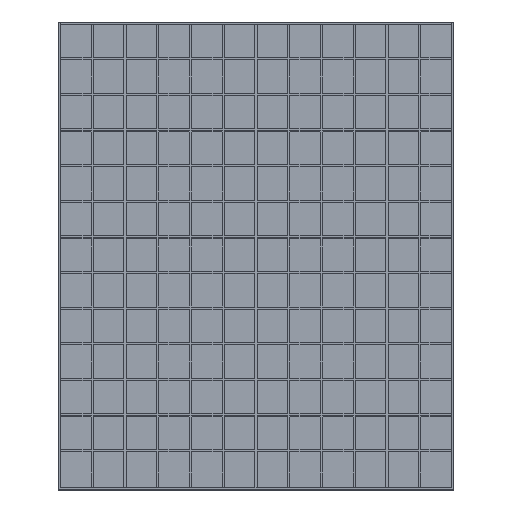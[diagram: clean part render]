
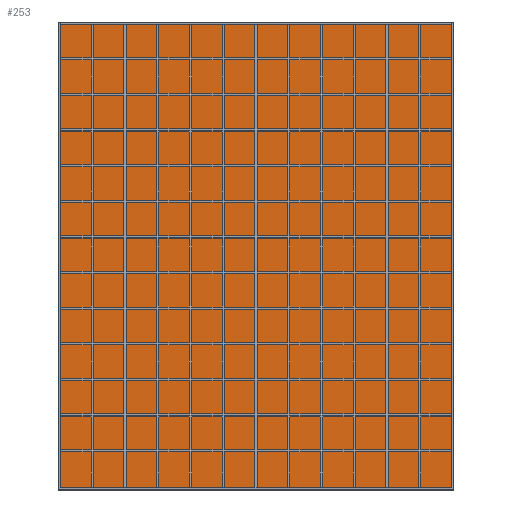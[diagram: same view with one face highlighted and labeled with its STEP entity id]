
A CAD part, top view. The second image highlights one B-rep face of the part: STEP entity #253.
In plain terms, the highlighted planar face has unit normal (0, 0, 1).
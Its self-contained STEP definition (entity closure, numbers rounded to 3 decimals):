
#217=AXIS2_PLACEMENT_3D('Plane Axis2P3D',#214,#215,#216) ;
#214=CARTESIAN_POINT('Axis2P3D Location',(0.,0.,5.)) ;
#219=CARTESIAN_POINT('Line Origine',(930.,553.,5.)) ;
#223=CARTESIAN_POINT('Vertex',(930.,5.,5.)) ;
#225=CARTESIAN_POINT('Vertex',(930.,1101.,5.)) ;
#228=CARTESIAN_POINT('Line Origine',(467.5,1101.,5.)) ;
#232=CARTESIAN_POINT('Vertex',(5.,1101.,5.)) ;
#235=CARTESIAN_POINT('Line Origine',(5.,553.,5.)) ;
#239=CARTESIAN_POINT('Vertex',(5.,5.,5.)) ;
#242=CARTESIAN_POINT('Line Origine',(467.5,5.,5.)) ;
#215=DIRECTION('Axis2P3D Direction',(0.,0.,1.)) ;
#216=DIRECTION('Axis2P3D XDirection',(1.,0.,0.)) ;
#220=DIRECTION('Vector Direction',(0.,1.,0.)) ;
#229=DIRECTION('Vector Direction',(1.,0.,0.)) ;
#236=DIRECTION('Vector Direction',(0.,1.,0.)) ;
#243=DIRECTION('Vector Direction',(1.,0.,0.)) ;
#221=VECTOR('Line Direction',#220,1.) ;
#230=VECTOR('Line Direction',#229,1.) ;
#237=VECTOR('Line Direction',#236,1.) ;
#244=VECTOR('Line Direction',#243,1.) ;
#248=ORIENTED_EDGE('',*,*,#227,.T.) ;
#249=ORIENTED_EDGE('',*,*,#234,.F.) ;
#250=ORIENTED_EDGE('',*,*,#241,.T.) ;
#251=ORIENTED_EDGE('',*,*,#246,.T.) ;
#253=ADVANCED_FACE('\X2\96F64EF651E04F554F53\X0\',(#252),#218,.T.) ;
#227=EDGE_CURVE('',#224,#226,#222,.T.) ;
#234=EDGE_CURVE('',#233,#226,#231,.T.) ;
#241=EDGE_CURVE('',#233,#240,#238,.F.) ;
#246=EDGE_CURVE('',#240,#224,#245,.T.) ;
#247=EDGE_LOOP('',(#248,#249,#250,#251)) ;
#252=FACE_OUTER_BOUND('',#247,.T.) ;
#222=LINE('Line',#219,#221) ;
#231=LINE('Line',#228,#230) ;
#238=LINE('Line',#235,#237) ;
#245=LINE('Line',#242,#244) ;
#218=PLANE('Plane',#217) ;
#224=VERTEX_POINT('',#223) ;
#226=VERTEX_POINT('',#225) ;
#233=VERTEX_POINT('',#232) ;
#240=VERTEX_POINT('',#239) ;
